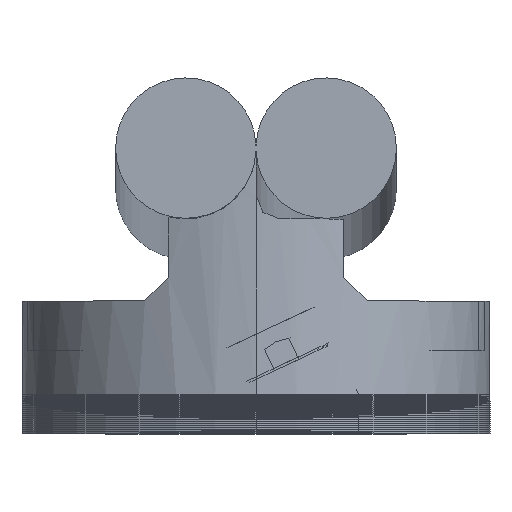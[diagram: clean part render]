
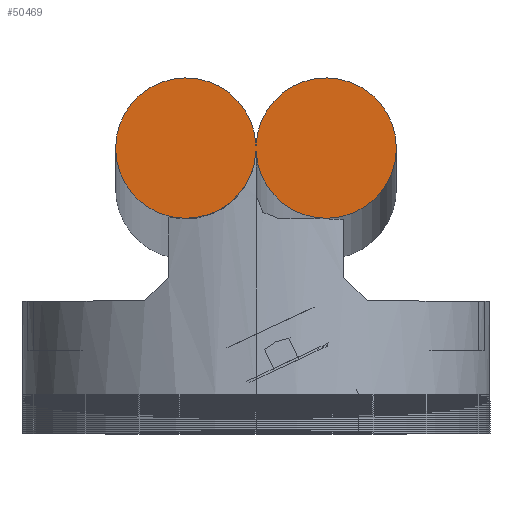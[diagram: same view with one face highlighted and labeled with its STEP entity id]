
A CAD part, top view. The second image highlights one B-rep face of the part: STEP entity #50469.
In plain terms, the highlighted planar face has unit normal (0, 0, 1).
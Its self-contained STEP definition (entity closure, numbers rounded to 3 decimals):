
#5548 = CARTESIAN_POINT ( 'NONE',  ( 0.005, 20.75, 0. ) ) ;
#5549 = DIRECTION ( 'NONE',  ( 1., 0., 0. ) ) ;
#5550 = DIRECTION ( 'NONE',  ( 0., 0., 1. ) ) ;
#5551 = CARTESIAN_POINT ( 'NONE',  ( 6., 21., 0. ) ) ;
#5552 = AXIS2_PLACEMENT_3D ( 'NONE', #5551, #5550, #5549 ) ;
#5553 = CIRCLE ( 'NONE', #5552, 6. ) ;
#5603 = CARTESIAN_POINT ( 'NONE',  ( 12., 21., 0. ) ) ;
#30032 = CARTESIAN_POINT ( 'NONE',  ( -0.005, 21.25, 0. ) ) ;
#30033 = DIRECTION ( 'NONE',  ( -1., 0., 0. ) ) ;
#30034 = DIRECTION ( 'NONE',  ( 0., 0., 1. ) ) ;
#30035 = CARTESIAN_POINT ( 'NONE',  ( -6., 21., 0. ) ) ;
#30036 = AXIS2_PLACEMENT_3D ( 'NONE', #30035, #30034, #30033 ) ;
#30037 = CIRCLE ( 'NONE', #30036, 6. ) ;
#30038 = CARTESIAN_POINT ( 'NONE',  ( -0.005, 20.75, 0. ) ) ;
#30046 = DIRECTION ( 'NONE',  ( 1., 0., 0. ) ) ;
#30047 = VECTOR ( 'NONE', #30046, 1000. ) ;
#30048 = CARTESIAN_POINT ( 'NONE',  ( -0.005, 20.75, 0. ) ) ;
#30049 = LINE ( 'NONE', #30048, #30047 ) ;
#30319 = FACE_OUTER_BOUND ( 'NONE', #50470, .T. ) ;
#30345 = DIRECTION ( 'NONE',  ( 1., 0., 0. ) ) ;
#30346 = DIRECTION ( 'NONE',  ( 0., 0., 1. ) ) ;
#30347 = CARTESIAN_POINT ( 'NONE',  ( 6., 21., 0. ) ) ;
#30348 = AXIS2_PLACEMENT_3D ( 'NONE', #30347, #30346, #30345 ) ;
#30350 = CIRCLE ( 'NONE', #30348, 6. ) ;
#30352 = CARTESIAN_POINT ( 'NONE',  ( 0.005, 21.25, 0. ) ) ;
#30363 = DIRECTION ( 'NONE',  ( 1., 0., 0. ) ) ;
#30364 = DIRECTION ( 'NONE',  ( 0., 0., 1. ) ) ;
#30365 = CARTESIAN_POINT ( 'NONE',  ( 6., 21., 0. ) ) ;
#30366 = AXIS2_PLACEMENT_3D ( 'NONE', #30365, #30364, #30363 ) ;
#30368 = PLANE ( 'NONE',  #30366 ) ;
#30388 = DIRECTION ( 'NONE',  ( -1., 0., 0. ) ) ;
#30389 = VECTOR ( 'NONE', #30388, 1000. ) ;
#30391 = CARTESIAN_POINT ( 'NONE',  ( -0.005, 21.25, 0. ) ) ;
#30393 = LINE ( 'NONE', #30391, #30389 ) ;
#34612 = EDGE_CURVE ( 'NONE', #34614, #34860, #5553, .T. ) ;
#34614 = VERTEX_POINT ( 'NONE', #5548 ) ;
#34860 = VERTEX_POINT ( 'NONE', #5603 ) ;
#50297 = EDGE_CURVE ( 'NONE', #50302, #34614, #30049, .T. ) ;
#50302 = VERTEX_POINT ( 'NONE', #30038 ) ;
#50304 = EDGE_CURVE ( 'NONE', #50305, #50302, #30037, .T. ) ;
#50305 = VERTEX_POINT ( 'NONE', #30032 ) ;
#50469 = ADVANCED_FACE ( 'NONE', ( #30319 ), #30368, .T. ) ;
#50470 = EDGE_LOOP ( 'NONE', ( #50471, #50472, #50530, #50531, #50532 ) ) ;
#50471 = ORIENTED_EDGE ( 'NONE', *, *, #34612, .T. ) ;
#50472 = ORIENTED_EDGE ( 'NONE', *, *, #50479, .T. ) ;
#50477 = VERTEX_POINT ( 'NONE', #30352 ) ;
#50479 = EDGE_CURVE ( 'NONE', #34860, #50477, #30350, .T. ) ;
#50483 = EDGE_CURVE ( 'NONE', #50477, #50305, #30393, .T. ) ;
#50530 = ORIENTED_EDGE ( 'NONE', *, *, #50483, .T. ) ;
#50531 = ORIENTED_EDGE ( 'NONE', *, *, #50304, .T. ) ;
#50532 = ORIENTED_EDGE ( 'NONE', *, *, #50297, .T. ) ;
